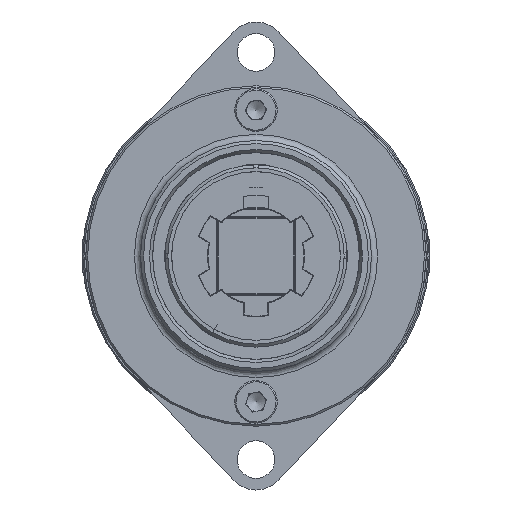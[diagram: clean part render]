
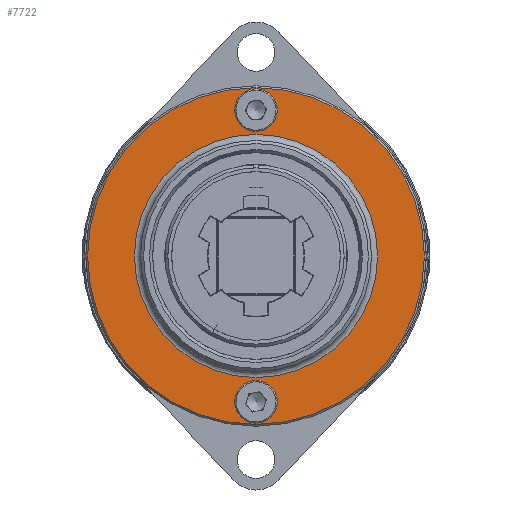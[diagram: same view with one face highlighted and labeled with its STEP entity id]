
A CAD part, left-side view. The second image highlights one B-rep face of the part: STEP entity #7722.
In plain terms, the highlighted planar face has unit normal (-1, 0, 0).
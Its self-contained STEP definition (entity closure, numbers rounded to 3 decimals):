
#1388 = DIRECTION ( 'NONE',  ( 0., -1., 0. ) ) ;
#2108 = PLANE ( 'NONE',  #9376 ) ;
#2325 = DIRECTION ( 'NONE',  ( 0., -1., 0. ) ) ;
#2412 = CARTESIAN_POINT ( 'NONE',  ( -164., -2.1, -24. ) ) ;
#2447 = CARTESIAN_POINT ( 'NONE',  ( -164., 0., 0. ) ) ;
#2524 = AXIS2_PLACEMENT_3D ( 'NONE', #2447, #15982, #1388 ) ;
#3196 = VERTEX_POINT ( 'NONE', #19761 ) ;
#3604 = VERTEX_POINT ( 'NONE', #3702 ) ;
#3702 = CARTESIAN_POINT ( 'NONE',  ( -164., -27.7, 0. ) ) ;
#4126 = ORIENTED_EDGE ( 'NONE', *, *, #14368, .F. ) ;
#4747 = EDGE_CURVE ( 'NONE', #3604, #3604, #7620, .T. ) ;
#5185 = FACE_BOUND ( 'NONE', #17659, .T. ) ;
#5305 = DIRECTION ( 'NONE',  ( -1., 0., 0. ) ) ;
#6109 = AXIS2_PLACEMENT_3D ( 'NONE', #7303, #13417, #8902 ) ;
#6200 = DIRECTION ( 'NONE',  ( 0., -1., 0. ) ) ;
#6630 = CIRCLE ( 'NONE', #7993, 2.1 ) ;
#7303 = CARTESIAN_POINT ( 'NONE',  ( -164., 0., 0. ) ) ;
#7419 = EDGE_CURVE ( 'NONE', #16917, #16917, #6630, .T. ) ;
#7463 = ORIENTED_EDGE ( 'NONE', *, *, #18477, .T. ) ;
#7620 = CIRCLE ( 'NONE', #2524, 27.7 ) ;
#7722 = ADVANCED_FACE ( 'NONE', ( #11557, #5185, #19649, #19848 ), #2108, .T. ) ;
#7993 = AXIS2_PLACEMENT_3D ( 'NONE', #20648, #12488, #6200 ) ;
#8548 = CIRCLE ( 'NONE', #20519, 2.1 ) ;
#8824 = EDGE_LOOP ( 'NONE', ( #9744 ) ) ;
#8902 = DIRECTION ( 'NONE',  ( 0., -1., 0. ) ) ;
#9376 = AXIS2_PLACEMENT_3D ( 'NONE', #15081, #13498, #18015 ) ;
#9744 = ORIENTED_EDGE ( 'NONE', *, *, #7419, .F. ) ;
#11557 = FACE_OUTER_BOUND ( 'NONE', #14204, .T. ) ;
#12088 = CARTESIAN_POINT ( 'NONE',  ( -164., 0., 24. ) ) ;
#12488 = DIRECTION ( 'NONE',  ( -1., 0., 0. ) ) ;
#13417 = DIRECTION ( 'NONE',  ( 1., 0., 0. ) ) ;
#13498 = DIRECTION ( 'NONE',  ( -1., 0., 0. ) ) ;
#13932 = CIRCLE ( 'NONE', #6109, 20. ) ;
#14204 = EDGE_LOOP ( 'NONE', ( #19186 ) ) ;
#14368 = EDGE_CURVE ( 'NONE', #18664, #18664, #8548, .T. ) ;
#15081 = CARTESIAN_POINT ( 'NONE',  ( -164., 0., 0. ) ) ;
#15982 = DIRECTION ( 'NONE',  ( -1., 0., 0. ) ) ;
#16917 = VERTEX_POINT ( 'NONE', #2412 ) ;
#17087 = EDGE_LOOP ( 'NONE', ( #4126 ) ) ;
#17488 = CARTESIAN_POINT ( 'NONE',  ( -164., -2.1, 24. ) ) ;
#17659 = EDGE_LOOP ( 'NONE', ( #7463 ) ) ;
#18015 = DIRECTION ( 'NONE',  ( 0., -1., 0. ) ) ;
#18477 = EDGE_CURVE ( 'NONE', #3196, #3196, #13932, .T. ) ;
#18664 = VERTEX_POINT ( 'NONE', #17488 ) ;
#19186 = ORIENTED_EDGE ( 'NONE', *, *, #4747, .T. ) ;
#19649 = FACE_BOUND ( 'NONE', #17087, .T. ) ;
#19761 = CARTESIAN_POINT ( 'NONE',  ( -164., -20., 0. ) ) ;
#19848 = FACE_BOUND ( 'NONE', #8824, .T. ) ;
#20519 = AXIS2_PLACEMENT_3D ( 'NONE', #12088, #5305, #2325 ) ;
#20648 = CARTESIAN_POINT ( 'NONE',  ( -164., 0., -24. ) ) ;
